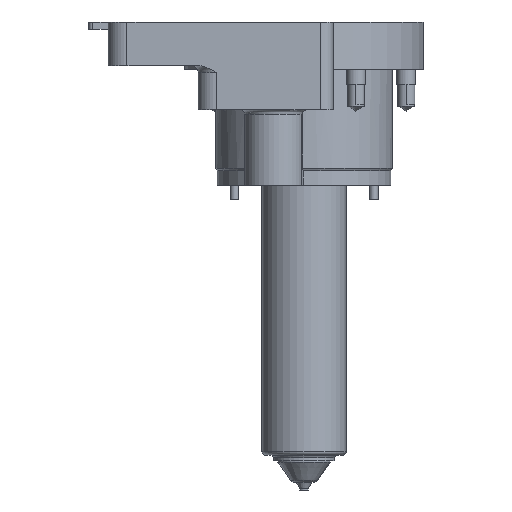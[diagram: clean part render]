
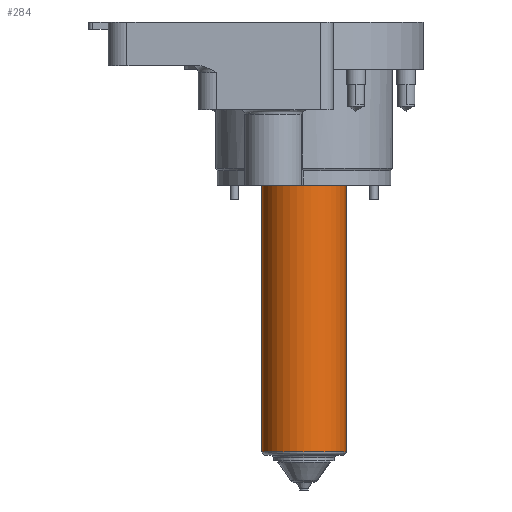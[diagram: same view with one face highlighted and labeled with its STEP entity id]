
A CAD part, front view. The second image highlights one B-rep face of the part: STEP entity #284.
In plain terms, the highlighted cylindrical face has radius 29 mm (diameter 58 mm), a full revolution.
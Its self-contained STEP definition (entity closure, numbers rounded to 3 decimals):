
#284 = ADVANCED_FACE( '', ( #640, #641 ), #642, .T. );
#640 = FACE_OUTER_BOUND( '', #1044, .T. );
#641 = FACE_OUTER_BOUND( '', #1045, .T. );
#642 = CYLINDRICAL_SURFACE( '', #1046, 29. );
#1044 = EDGE_LOOP( '', ( #1782 ) );
#1045 = EDGE_LOOP( '', ( #1783 ) );
#1046 = AXIS2_PLACEMENT_3D( '', #1784, #1785, #1786 );
#1782 = ORIENTED_EDGE( '', *, *, #2434, .F. );
#1783 = ORIENTED_EDGE( '', *, *, #2367, .T. );
#1784 = CARTESIAN_POINT( '', ( 0., 0., 0. ) );
#1785 = DIRECTION( '', ( 0., 0., -1. ) );
#1786 = DIRECTION( '', ( 1., 0., 0. ) );
#2367 = EDGE_CURVE( '', #2868, #2868, #2869, .T. );
#2434 = EDGE_CURVE( '', #2961, #2961, #2962, .F. );
#2868 = VERTEX_POINT( '', #3537 );
#2869 = CIRCLE( '', #3538, 29. );
#2961 = VERTEX_POINT( '', #3656 );
#2962 = CIRCLE( '', #3657, 29. );
#3537 = CARTESIAN_POINT( '', ( -29., 0., -112.5 ) );
#3538 = AXIS2_PLACEMENT_3D( '', #4084, #4085, #4086 );
#3656 = CARTESIAN_POINT( '', ( 29., 0., -296. ) );
#3657 = AXIS2_PLACEMENT_3D( '', #4164, #4165, #4166 );
#4084 = CARTESIAN_POINT( '', ( 0., 0., -112.5 ) );
#4085 = DIRECTION( '', ( 0., 0., -1. ) );
#4086 = DIRECTION( '', ( -1., 0., 0. ) );
#4164 = CARTESIAN_POINT( '', ( 0., 0., -296. ) );
#4165 = DIRECTION( '', ( 0., 0., 1. ) );
#4166 = DIRECTION( '', ( 1., 0., 0. ) );
